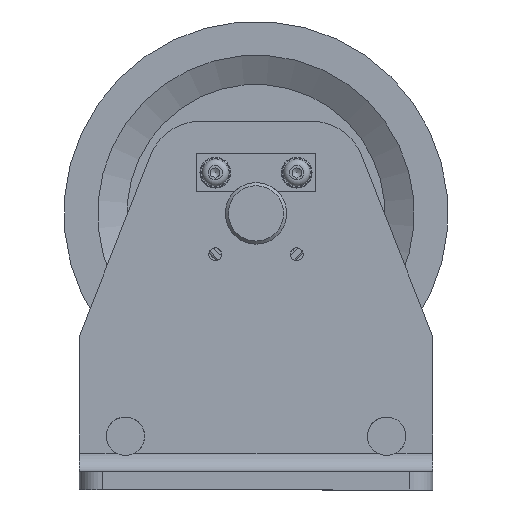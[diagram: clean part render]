
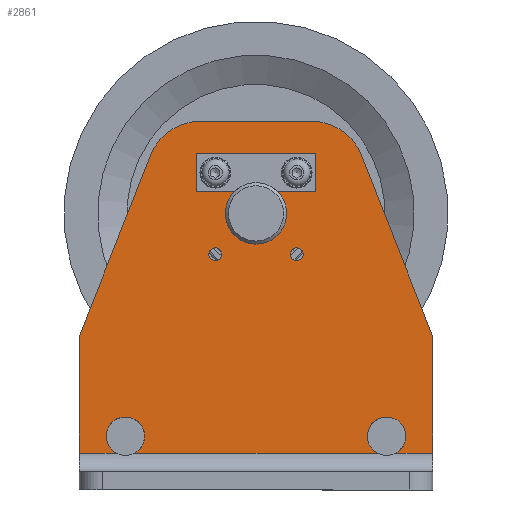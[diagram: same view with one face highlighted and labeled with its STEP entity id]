
A CAD part, front view. The second image highlights one B-rep face of the part: STEP entity #2861.
In plain terms, the highlighted planar face has unit normal (0, -1, 0) as drawn and (0, 0, 1) by its records, which use the part's own axes.
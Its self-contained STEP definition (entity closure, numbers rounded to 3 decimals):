
#211=FACE_BOUND('',#526,.T.);
#212=FACE_BOUND('',#527,.T.);
#213=FACE_BOUND('',#528,.T.);
#214=FACE_BOUND('',#529,.T.);
#215=FACE_BOUND('',#530,.T.);
#281=PLANE('',#3405);
#365=FACE_OUTER_BOUND('',#525,.T.);
#525=EDGE_LOOP('',(#2164,#2165,#2166,#2167,#2168,#2169,#2170,#2171,#2172,
#2173,#2174,#2175,#2176,#2177));
#526=EDGE_LOOP('',(#2178,#2179));
#527=EDGE_LOOP('',(#2180,#2181));
#528=EDGE_LOOP('',(#2182,#2183));
#529=EDGE_LOOP('',(#2184,#2185));
#530=EDGE_LOOP('',(#2186));
#717=CIRCLE('',#3355,4.188);
#718=CIRCLE('',#3356,4.188);
#720=CIRCLE('',#3359,4.188);
#721=CIRCLE('',#3360,4.188);
#723=CIRCLE('',#3363,4.188);
#724=CIRCLE('',#3364,4.188);
#726=CIRCLE('',#3367,4.188);
#727=CIRCLE('',#3368,4.188);
#738=CIRCLE('',#3391,12.5);
#739=CIRCLE('',#3392,12.5);
#740=CIRCLE('',#3394,12.5);
#741=CIRCLE('',#3395,12.5);
#742=CIRCLE('',#3397,20.);
#743=CIRCLE('',#3400,35.);
#744=CIRCLE('',#3403,35.);
#922=LINE('',#4741,#1063);
#923=LINE('',#4758,#1064);
#927=LINE('',#4769,#1068);
#970=LINE('',#4933,#1111);
#971=LINE('',#4936,#1112);
#980=LINE('',#4974,#1121);
#983=LINE('',#4982,#1124);
#986=LINE('',#4989,#1127);
#1063=VECTOR('',#3749,10.);
#1064=VECTOR('',#3750,10.);
#1068=VECTOR('',#3758,10.);
#1111=VECTOR('',#3907,10.);
#1112=VECTOR('',#3910,10.);
#1121=VECTOR('',#3953,10.);
#1124=VECTOR('',#3962,10.);
#1127=VECTOR('',#3971,10.);
#1244=VERTEX_POINT('',#4724);
#1245=VERTEX_POINT('',#4725);
#1246=VERTEX_POINT('',#4740);
#1247=VERTEX_POINT('',#4742);
#1248=VERTEX_POINT('',#4757);
#1253=VERTEX_POINT('',#4767);
#1282=VERTEX_POINT('',#4850);
#1283=VERTEX_POINT('',#4851);
#1285=VERTEX_POINT('',#4858);
#1286=VERTEX_POINT('',#4859);
#1288=VERTEX_POINT('',#4866);
#1289=VERTEX_POINT('',#4867);
#1291=VERTEX_POINT('',#4874);
#1292=VERTEX_POINT('',#4875);
#1301=VERTEX_POINT('',#4931);
#1302=VERTEX_POINT('',#4935);
#1311=VERTEX_POINT('',#4959);
#1312=VERTEX_POINT('',#4964);
#1313=VERTEX_POINT('',#4969);
#1314=VERTEX_POINT('',#4973);
#1315=VERTEX_POINT('',#4977);
#1316=VERTEX_POINT('',#4981);
#1317=VERTEX_POINT('',#4985);
#1547=EDGE_CURVE('',#1246,#1245,#922,.T.);
#1549=EDGE_CURVE('',#1248,#1247,#923,.T.);
#1555=EDGE_CURVE('',#1244,#1253,#927,.T.);
#1597=EDGE_CURVE('',#1282,#1283,#717,.T.);
#1598=EDGE_CURVE('',#1283,#1282,#718,.T.);
#1601=EDGE_CURVE('',#1285,#1286,#720,.T.);
#1602=EDGE_CURVE('',#1286,#1285,#721,.T.);
#1605=EDGE_CURVE('',#1288,#1289,#723,.T.);
#1606=EDGE_CURVE('',#1289,#1288,#724,.T.);
#1609=EDGE_CURVE('',#1291,#1292,#726,.T.);
#1610=EDGE_CURVE('',#1292,#1291,#727,.T.);
#1630=EDGE_CURVE('',#1301,#1253,#970,.T.);
#1631=EDGE_CURVE('',#1248,#1302,#971,.T.);
#1645=EDGE_CURVE('',#1245,#1311,#738,.T.);
#1646=EDGE_CURVE('',#1311,#1244,#739,.T.);
#1648=EDGE_CURVE('',#1247,#1312,#740,.T.);
#1649=EDGE_CURVE('',#1312,#1246,#741,.T.);
#1651=EDGE_CURVE('',#1313,#1313,#742,.T.);
#1652=EDGE_CURVE('',#1302,#1314,#980,.T.);
#1654=EDGE_CURVE('',#1314,#1315,#743,.T.);
#1656=EDGE_CURVE('',#1315,#1316,#983,.T.);
#1658=EDGE_CURVE('',#1316,#1317,#744,.T.);
#1660=EDGE_CURVE('',#1317,#1301,#986,.T.);
#2164=ORIENTED_EDGE('',*,*,#1555,.T.);
#2165=ORIENTED_EDGE('',*,*,#1630,.F.);
#2166=ORIENTED_EDGE('',*,*,#1660,.F.);
#2167=ORIENTED_EDGE('',*,*,#1658,.F.);
#2168=ORIENTED_EDGE('',*,*,#1656,.F.);
#2169=ORIENTED_EDGE('',*,*,#1654,.F.);
#2170=ORIENTED_EDGE('',*,*,#1652,.F.);
#2171=ORIENTED_EDGE('',*,*,#1631,.F.);
#2172=ORIENTED_EDGE('',*,*,#1549,.T.);
#2173=ORIENTED_EDGE('',*,*,#1648,.T.);
#2174=ORIENTED_EDGE('',*,*,#1649,.T.);
#2175=ORIENTED_EDGE('',*,*,#1547,.T.);
#2176=ORIENTED_EDGE('',*,*,#1645,.T.);
#2177=ORIENTED_EDGE('',*,*,#1646,.T.);
#2178=ORIENTED_EDGE('',*,*,#1597,.T.);
#2179=ORIENTED_EDGE('',*,*,#1598,.T.);
#2180=ORIENTED_EDGE('',*,*,#1601,.T.);
#2181=ORIENTED_EDGE('',*,*,#1602,.T.);
#2182=ORIENTED_EDGE('',*,*,#1605,.T.);
#2183=ORIENTED_EDGE('',*,*,#1606,.T.);
#2184=ORIENTED_EDGE('',*,*,#1609,.T.);
#2185=ORIENTED_EDGE('',*,*,#1610,.T.);
#2186=ORIENTED_EDGE('',*,*,#1651,.T.);
#2861=ADVANCED_FACE('',(#365,#211,#212,#213,#214,#215),#281,.T.);
#3355=AXIS2_PLACEMENT_3D('',#4852,#3838,#3839);
#3356=AXIS2_PLACEMENT_3D('',#4853,#3840,#3841);
#3359=AXIS2_PLACEMENT_3D('',#4860,#3847,#3848);
#3360=AXIS2_PLACEMENT_3D('',#4861,#3849,#3850);
#3363=AXIS2_PLACEMENT_3D('',#4868,#3856,#3857);
#3364=AXIS2_PLACEMENT_3D('',#4869,#3858,#3859);
#3367=AXIS2_PLACEMENT_3D('',#4876,#3865,#3866);
#3368=AXIS2_PLACEMENT_3D('',#4877,#3867,#3868);
#3391=AXIS2_PLACEMENT_3D('',#4961,#3935,#3936);
#3392=AXIS2_PLACEMENT_3D('',#4962,#3937,#3938);
#3394=AXIS2_PLACEMENT_3D('',#4966,#3942,#3943);
#3395=AXIS2_PLACEMENT_3D('',#4967,#3944,#3945);
#3397=AXIS2_PLACEMENT_3D('',#4971,#3949,#3950);
#3400=AXIS2_PLACEMENT_3D('',#4978,#3957,#3958);
#3403=AXIS2_PLACEMENT_3D('',#4986,#3966,#3967);
#3405=AXIS2_PLACEMENT_3D('',#4990,#3972,#3973);
#3749=DIRECTION('',(1.,0.,0.));
#3750=DIRECTION('',(1.,0.,0.));
#3758=DIRECTION('',(1.,0.,0.));
#3838=DIRECTION('center_axis',(0.,0.,-1.));
#3839=DIRECTION('ref_axis',(1.,0.,0.));
#3840=DIRECTION('center_axis',(0.,0.,-1.));
#3841=DIRECTION('ref_axis',(1.,0.,0.));
#3847=DIRECTION('center_axis',(0.,0.,-1.));
#3848=DIRECTION('ref_axis',(1.,0.,0.));
#3849=DIRECTION('center_axis',(0.,0.,-1.));
#3850=DIRECTION('ref_axis',(1.,0.,0.));
#3856=DIRECTION('center_axis',(0.,0.,-1.));
#3857=DIRECTION('ref_axis',(1.,0.,0.));
#3858=DIRECTION('center_axis',(0.,0.,-1.));
#3859=DIRECTION('ref_axis',(1.,0.,0.));
#3865=DIRECTION('center_axis',(0.,0.,-1.));
#3866=DIRECTION('ref_axis',(1.,0.,0.));
#3867=DIRECTION('center_axis',(0.,0.,-1.));
#3868=DIRECTION('ref_axis',(1.,0.,0.));
#3907=DIRECTION('',(0.,-1.,0.));
#3910=DIRECTION('',(0.,1.,0.));
#3935=DIRECTION('center_axis',(0.,0.,-1.));
#3936=DIRECTION('ref_axis',(-1.,0.,0.));
#3937=DIRECTION('center_axis',(0.,0.,-1.));
#3938=DIRECTION('ref_axis',(-1.,0.,0.));
#3942=DIRECTION('center_axis',(0.,0.,-1.));
#3943=DIRECTION('ref_axis',(-1.,0.,0.));
#3944=DIRECTION('center_axis',(0.,0.,-1.));
#3945=DIRECTION('ref_axis',(-1.,0.,0.));
#3949=DIRECTION('center_axis',(0.,0.,-1.));
#3950=DIRECTION('ref_axis',(-1.,0.,0.));
#3953=DIRECTION('',(0.366,0.931,0.));
#3957=DIRECTION('center_axis',(0.,0.,-1.));
#3958=DIRECTION('ref_axis',(0.,1.,0.));
#3962=DIRECTION('',(1.,0.,0.));
#3966=DIRECTION('center_axis',(0.,0.,-1.));
#3967=DIRECTION('ref_axis',(0.931,0.366,0.));
#3971=DIRECTION('',(0.366,-0.931,0.));
#3972=DIRECTION('center_axis',(0.,0.,1.));
#3973=DIRECTION('ref_axis',(1.,0.,0.));
#4724=CARTESIAN_POINT('',(90.937,24.,12.));
#4725=CARTESIAN_POINT('',(79.063,24.,12.));
#4740=CARTESIAN_POINT('',(-79.063,24.,12.));
#4741=CARTESIAN_POINT('',(39.531,24.,12.));
#4742=CARTESIAN_POINT('',(-90.937,24.,12.));
#4757=CARTESIAN_POINT('',(-115.,24.,12.));
#4758=CARTESIAN_POINT('',(-45.469,24.,12.));
#4767=CARTESIAN_POINT('',(115.,24.,12.));
#4769=CARTESIAN_POINT('',(57.5,24.,12.));
#4850=CARTESIAN_POINT('',(-22.312,153.5,12.));
#4851=CARTESIAN_POINT('',(-30.688,153.5,12.));
#4852=CARTESIAN_POINT('Origin',(-26.5,153.5,12.));
#4853=CARTESIAN_POINT('Origin',(-26.5,153.5,12.));
#4858=CARTESIAN_POINT('',(30.688,153.5,12.));
#4859=CARTESIAN_POINT('',(22.312,153.5,12.));
#4860=CARTESIAN_POINT('Origin',(26.5,153.5,12.));
#4861=CARTESIAN_POINT('Origin',(26.5,153.5,12.));
#4866=CARTESIAN_POINT('',(-22.312,206.5,12.));
#4867=CARTESIAN_POINT('',(-30.688,206.5,12.));
#4868=CARTESIAN_POINT('Origin',(-26.5,206.5,12.));
#4869=CARTESIAN_POINT('Origin',(-26.5,206.5,12.));
#4874=CARTESIAN_POINT('',(30.688,206.5,12.));
#4875=CARTESIAN_POINT('',(22.312,206.5,12.));
#4876=CARTESIAN_POINT('Origin',(26.5,206.5,12.));
#4877=CARTESIAN_POINT('Origin',(26.5,206.5,12.));
#4931=CARTESIAN_POINT('',(115.,100.,12.));
#4933=CARTESIAN_POINT('',(115.,0.,12.));
#4935=CARTESIAN_POINT('',(-115.,100.,12.));
#4936=CARTESIAN_POINT('',(-115.,100.,12.));
#4959=CARTESIAN_POINT('',(97.5,35.,12.));
#4961=CARTESIAN_POINT('Origin',(85.,35.,12.));
#4962=CARTESIAN_POINT('Origin',(85.,35.,12.));
#4964=CARTESIAN_POINT('',(-72.5,35.,12.));
#4966=CARTESIAN_POINT('Origin',(-85.,35.,12.));
#4967=CARTESIAN_POINT('Origin',(-85.,35.,12.));
#4969=CARTESIAN_POINT('',(20.,180.,12.));
#4971=CARTESIAN_POINT('Origin',(0.,180.,12.));
#4973=CARTESIAN_POINT('',(-68.722,217.798,12.));
#4974=CARTESIAN_POINT('',(-68.722,217.798,12.));
#4977=CARTESIAN_POINT('',(-36.146,240.,12.));
#4978=CARTESIAN_POINT('Origin',(-36.146,205.,12.));
#4981=CARTESIAN_POINT('',(36.146,240.,12.));
#4982=CARTESIAN_POINT('',(36.146,240.,12.));
#4985=CARTESIAN_POINT('',(68.722,217.798,12.));
#4986=CARTESIAN_POINT('Origin',(36.146,205.,12.));
#4989=CARTESIAN_POINT('',(115.,100.,12.));
#4990=CARTESIAN_POINT('Origin',(0.,103.666,12.));
